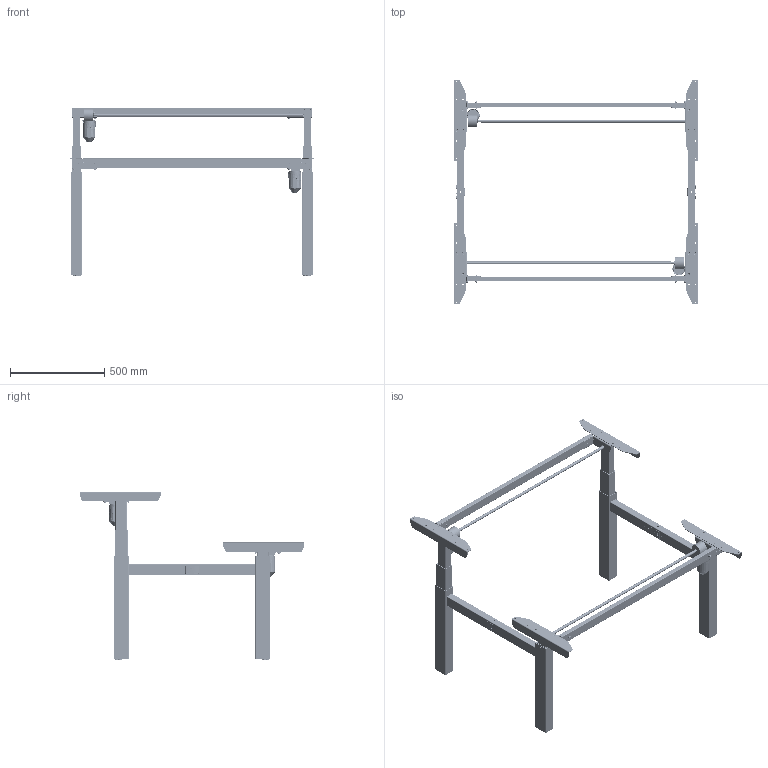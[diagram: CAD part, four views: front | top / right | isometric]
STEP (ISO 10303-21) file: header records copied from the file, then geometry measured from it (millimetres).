
FILE_DESCRIPTION (( 'STEP AP203' ), '1' );
FILE_NAME ('Tech-draw_501-88_XX129.STEP', '2019-09-26T07:09:55', ( '' ), ( '' ), 'SwSTEP 2.0', 'SolidWorks 2018', '' );
FILE_SCHEMA (( 'CONFIG_CONTROL_DESIGN' ));
Length unit declared in the file: millimetre
Products named in the file (38): 346340; 344430_black; 308630; 342310_black; 324520_black; 346330; 332570; 149220_501-88 XB129; Tech-draw_501-88_XX129; 348920_black; 142070_black1; 346210_shell view; 346190_shell view; 346640; 342310; 143690_black; 143690_black1; 341800; 340760; 142080_black1; 143700_black; 143700_black1; 346260; 341220; 352610; 341800_black; 306980; 346290_shell view; 347360_black; 340560; 347910_129; 347920_129; 347080_black; 346910_black; 347590; 346250_black1; 144260_129; 143710_black1
Assembly tree (121 placements, depth 6):
  Tech-draw_501-88_XX129
    149220_501-88 XB129
      347910_129  x2
      143690_black
        143700_black
          143710_black1
            347590
            346260  x2
          346250_black1  x2
          342310_black  x2
          341800_black  x6
          346910_black  x2
        142070_black1
          346290_shell view
          346190_shell view
          346330
          346640
        142080_black1
          346290_shell view
          346210_shell view
          346340
          346640
        344430_black
        324520_black  x2
        341800_black  x3
        341800  x3
        342310_black
        342310
        306980  x2
        347360_black  x2
        347080_black  x2
        352610
      143690_black1
        143700_black1
          143710_black1
            347590
            346260  x2
          346250_black1  x2
          342310_black  x2
          341800_black  x6
          346910_black  x2
        142070_black1
          346290_shell view
          346190_shell view
          346330
          346640
        142080_black1
          346290_shell view
          346210_shell view
          346340
          346640
        344430_black
        324520_black  x2
        341800  x3
        341800_black  x3
        342310
        342310_black
        306980  x2
        347360_black  x2
        347080_black  x2
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Bounding box: 1294.9 x 1190 x 892.65 mm (x, y, z)
Volume: 5212356.1 mm3; surface area: 5333022.8 mm2
Topology: 122 solids, 122 shells, 7870 faces, 20790 edges, 13326 vertices
Faces by surface type: plane 4216, cylinder 2190, bspline 956, torus 246, cone 226, sphere 36
Full cylindrical faces by diameter (mm): 2.8 x4, 3 x4, 4 x24, 4.6 x8, 5 x32, 6 x16, 7 x32, 7.6 x8, 8 x24, 10 x18, 11.9 x4, 12 x2, 13 x4, 15 x4, 16 x4, 18 x6, 20 x2, 24 x4, 37.6 x8, 60 x2
Entity records: 103844 total; most frequent: CARTESIAN_POINT 42385, ORIENTED_EDGE 11892, DIRECTION 10839, EDGE_CURVE 5946, VERTEX_POINT 3872, AXIS2_PLACEMENT_3D 3832, LINE 3175, VECTOR 3175
